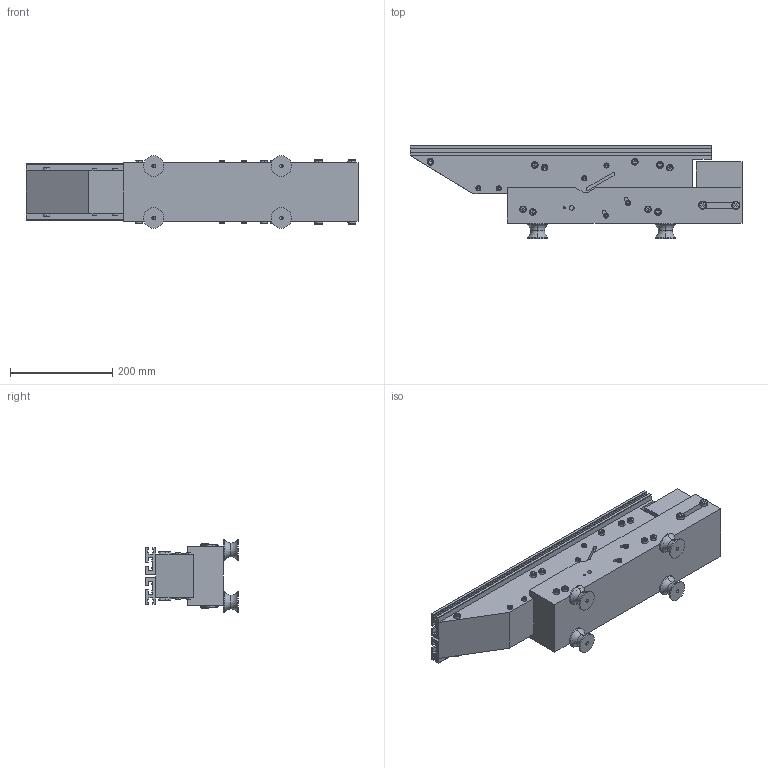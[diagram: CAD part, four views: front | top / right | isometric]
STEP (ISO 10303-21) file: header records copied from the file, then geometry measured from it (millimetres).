
FILE_DESCRIPTION (( 'STEP AP203' ), '1' );
FILE_NAME ('ZX600 眻盄23.04.STEP', '2023-04-13T01:45:09', ( '' ), ( '' ), 'SwSTEP 2.0', 'SolidWorks 2022', '' );
FILE_SCHEMA (( 'CONFIG_CONTROL_DESIGN' ));
Length unit declared in the file: millimetre
Products named in the file (1): ZX600 眻盄23.04
Bounding box: 650 x 182 x 142 mm (x, y, z)
Volume: 7736951.4 mm3; surface area: 576752.5 mm2
Topology: 9 solids, 41 shells, 1102 faces, 2376 edges, 1436 vertices
Faces by surface type: plane 684, cylinder 226, cone 104, bspline 72, torus 16
Entity records: 30353 total; most frequent: CARTESIAN_POINT 6277, DIRECTION 5118, ORIENTED_EDGE 4736, EDGE_CURVE 2368, AXIS2_PLACEMENT_3D 1797, LINE 1524, VECTOR 1524, VERTEX_POINT 1436
